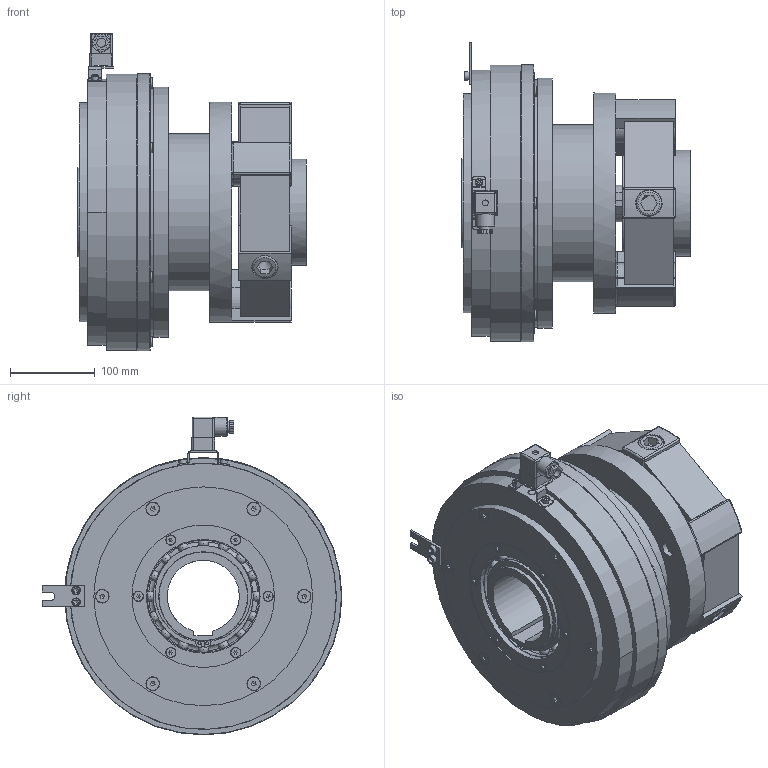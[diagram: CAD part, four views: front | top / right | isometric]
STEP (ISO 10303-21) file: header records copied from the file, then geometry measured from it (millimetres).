
FILE_DESCRIPTION(/* description */ (''),/* implementation_level */ '2;1');
FILE_NAME(/* name */ 'X:\INVENTOR\DISEGNI\08_Freni_Friz_Elettmag_Monodisco\08_26 EMSL_DF\EMSL_DF STEP\08_26_310_51 EMSL310_DF-GE_S@STEP.stp',/* time_stamp */ '2018-04-24T10:19:19+02:00',/* author */ ('stefano'),/* organization */ (''),/* preprocessor_version */ 'ST-DEVELOPER v17',/* originating_system */ 'Autodesk Inventor 2018',/* authorisation */ '');
FILE_SCHEMA (('AUTOMOTIVE_DESIGN { 1 0 10303 214 3 1 1 }'));
Products named in the file (1): 08_26_310_51 EMSL310_DF-GE - Spina_Substitute_1
Bounding box: 270 x 353.5 x 374.81 mm (x, y, z)
Volume: 9798457 mm3; surface area: 1335015.4 mm2
Topology: 3 solids, 3 shells, 1373 faces, 4087 edges, 2774 vertices
Faces by surface type: plane 544, cylinder 532, cone 123, torus 122, sphere 52
Full cylindrical faces by diameter (mm): 2 x1, 3 x12, 3.5 x2, 5 x2, 5.25 x2, 6 x6, 6.647 x6, 7 x1, 8 x10, 8.1 x12, 8.376 x6, 8.5 x8, 9 x2, 10 x2, 10.106 x6, 10.5 x1, 11.34 x6, 12 x18, 13 x11, 13.5 x6, 15 x12, 15.24 x6, 16 x12, 17.294 x6, 22 x1, 30 x6, 31 x6, 48 x6, 101 x2, 105 x4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
Entity records: 50744 total; most frequent: CARTESIAN_POINT 12606, DIRECTION 8028, ORIENTED_EDGE 7918, EDGE_CURVE 3959, AXIS2_PLACEMENT_3D 3260, VERTEX_POINT 2778, CIRCLE 1846, EDGE_LOOP 1763
